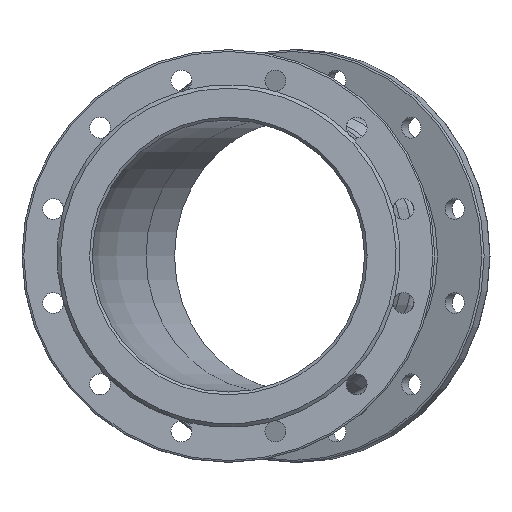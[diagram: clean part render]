
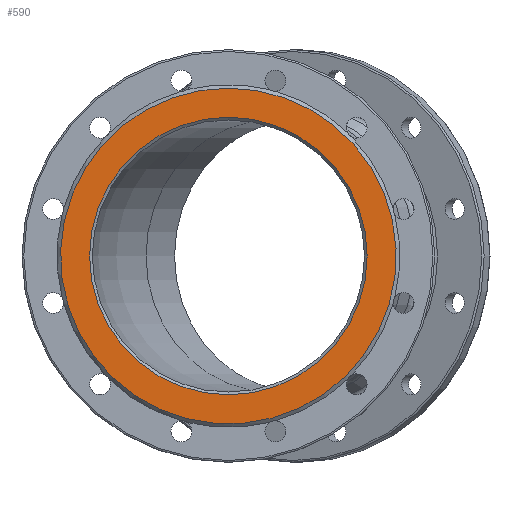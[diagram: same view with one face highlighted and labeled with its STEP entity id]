
A CAD part, left-side view. The second image highlights one B-rep face of the part: STEP entity #590.
In plain terms, the highlighted planar face has unit normal (-1, 0, 0).
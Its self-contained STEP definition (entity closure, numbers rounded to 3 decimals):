
#200 = FACE_BOUND ( 'NONE', #454, .T. ) ;
#215 = DIRECTION ( 'NONE',  ( 0., 0., 1. ) ) ;
#291 = ORIENTED_EDGE ( 'NONE', *, *, #2748, .T. ) ;
#390 = DIRECTION ( 'NONE',  ( 0., 0., -1. ) ) ;
#454 = EDGE_LOOP ( 'NONE', ( #291 ) ) ;
#579 = EDGE_CURVE ( 'NONE', #1167, #1167, #2487, .T. ) ;
#590 = ADVANCED_FACE ( 'NONE', ( #200, #2080 ), #3168, .F. ) ;
#728 = DIRECTION ( 'NONE',  ( 0., 0., -1. ) ) ;
#870 = AXIS2_PLACEMENT_3D ( 'NONE', #3422, #2840, #215 ) ;
#1028 = CARTESIAN_POINT ( 'NONE',  ( 0., 150., 0. ) ) ;
#1167 = VERTEX_POINT ( 'NONE', #1678 ) ;
#1479 = ORIENTED_EDGE ( 'NONE', *, *, #579, .T. ) ;
#1499 = DIRECTION ( 'NONE',  ( 1., 0., 0. ) ) ;
#1678 = CARTESIAN_POINT ( 'NONE',  ( 0., 0., 185. ) ) ;
#1825 = EDGE_LOOP ( 'NONE', ( #1479 ) ) ;
#1910 = AXIS2_PLACEMENT_3D ( 'NONE', #1977, #3047, #390 ) ;
#1977 = CARTESIAN_POINT ( 'NONE',  ( 0., 0., 0. ) ) ;
#2080 = FACE_OUTER_BOUND ( 'NONE', #1825, .T. ) ;
#2487 = CIRCLE ( 'NONE', #870, 185. ) ;
#2748 = EDGE_CURVE ( 'NONE', #3075, #3075, #2753, .T. ) ;
#2753 = CIRCLE ( 'NONE', #1910, 153. ) ;
#2840 = DIRECTION ( 'NONE',  ( -1., 0., 0. ) ) ;
#3047 = DIRECTION ( 'NONE',  ( 1., 0., 0. ) ) ;
#3075 = VERTEX_POINT ( 'NONE', #3129 ) ;
#3129 = CARTESIAN_POINT ( 'NONE',  ( 0., 0., -153. ) ) ;
#3168 = PLANE ( 'NONE',  #3272 ) ;
#3272 = AXIS2_PLACEMENT_3D ( 'NONE', #1028, #1499, #728 ) ;
#3422 = CARTESIAN_POINT ( 'NONE',  ( 0., 0., 0. ) ) ;
